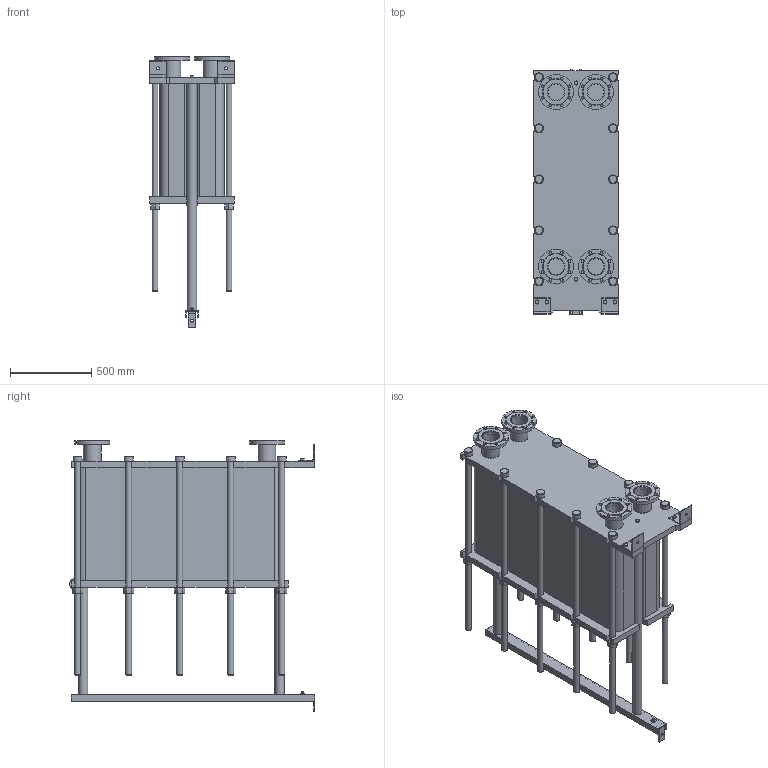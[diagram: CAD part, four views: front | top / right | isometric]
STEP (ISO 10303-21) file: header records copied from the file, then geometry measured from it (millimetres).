
FILE_DESCRIPTION(/* description */ (''),/* implementation_level */ '2;1');
FILE_NAME(/* name */ 'C:\Users\zhuro\Desktop\ENCO\TO\ЭН-04\ЭН-0,5-04-202-1.stp',/* time_stamp */ '2022-06-06T11:03:46+03:00',/* author */ ('zhuro'),/* organization */ (''),/* preprocessor_version */ 'ST-DEVELOPER v18.1',/* originating_system */ 'Autodesk Inventor 2022',/* authorisation */ '');
FILE_SCHEMA (('AUTOMOTIVE_DESIGN { 1 0 10303 214 3 1 1 }'));
Length unit declared in the file: millimetre
Products named in the file (1): ЭН-0,5-04-202-1
Bounding box: 520 x 1510 x 1676 mm (x, y, z)
Volume: 424976675.2 mm3; surface area: 10598251.6 mm2
Topology: 45 solids, 45 shells, 668 faces, 1611 edges, 1048 vertices
Faces by surface type: plane 457, cylinder 166, cone 39, torus 6
Full cylindrical faces by diameter (mm): 8 x4, 10 x2, 16 x8, 18 x35, 36 x25, 40 x2, 42 x1, 45 x4, 54 x10, 57 x2, 60 x10, 68 x2, 100 x4, 110 x8, 215 x4
Entity records: 23607 total; most frequent: CARTESIAN_POINT 7348, DIRECTION 3371, ORIENTED_EDGE 3142, EDGE_CURVE 1571, AXIS2_PLACEMENT_3D 1199, VERTEX_POINT 1044, LINE 973, VECTOR 973
